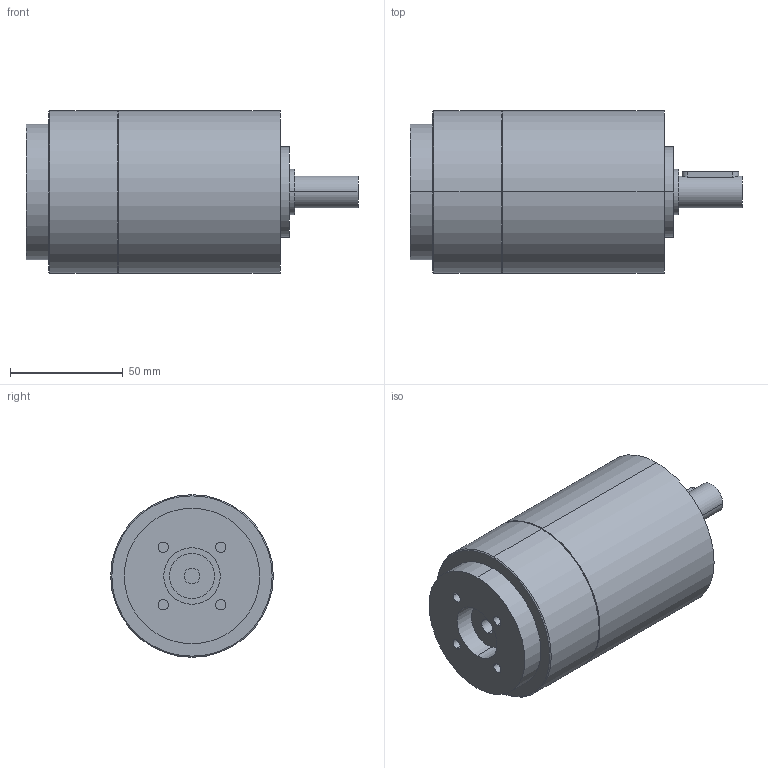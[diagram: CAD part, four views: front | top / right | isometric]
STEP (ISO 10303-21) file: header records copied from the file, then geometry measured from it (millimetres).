
FILE_DESCRIPTION(('CoCreate Modeling STEP Export'),'2;1');
FILE_NAME('GPT75_ig-9-12-16-20-25-28-35-40-50-70-100_14_B14T_7_P19.stp','2014-08-27T13:23:23',(''),(''),'CoCreate Modeling STEP processor for AP214 (Solid Model)','CoCreate Modeling 16.00C 25-Feb-2009 (C) Parametric Technology GmbH','');
FILE_SCHEMA(('AUTOMOTIVE_DESIGN { 1 0 10303 214 1 1 1 1 }'));
Length unit declared in the file: millimetre
Products named in the file (2): GPT75_ig-9-12-16-20-25-28-35-40-50-70-100_14_B14T_7_P19
Assembly tree (1 placements, depth 2):
  GPT75_ig-9-12-16-20-25-28-35-40-50-70-100_14_B14T_7_P19
    GPT75_ig-9-12-16-20-25-28-35-40-50-70-100_14_B14T_7_P19
Bounding box: 147 x 72 x 72 mm (x, y, z)
Volume: 449228.2 mm3; surface area: 38417.8 mm2
Topology: 1 solids, 1 shells, 64 faces, 142 edges, 97 vertices
Faces by surface type: cylinder 38, plane 22, cone 4
Entity records: 1878 total; most frequent: CARTESIAN_POINT 614, ORIENTED_EDGE 284, DIRECTION 210, EDGE_CURVE 142, VERTEX_POINT 97, AXIS2_PLACEMENT_3D 81, EDGE_LOOP 81, FACE_OUTER_BOUND 64
